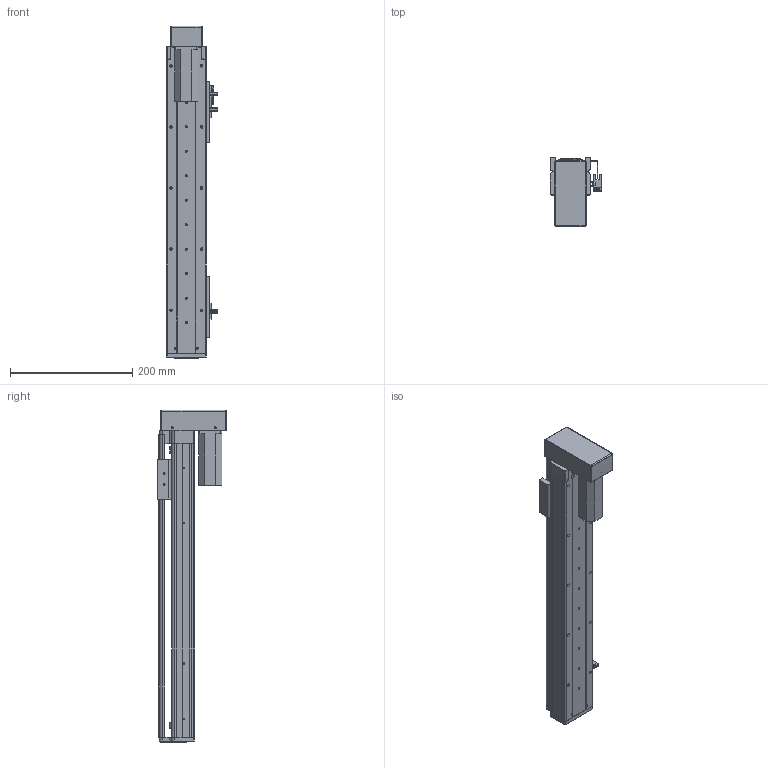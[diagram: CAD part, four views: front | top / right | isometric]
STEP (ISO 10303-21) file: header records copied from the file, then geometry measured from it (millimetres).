
FILE_DESCRIPTION (( 'STEP AP203' ), '1' );
FILE_NAME ('RY60-L1210-300-BK.SLDASM_350.step', '2021-02-20T06:42:08', ( '盈信电脑' ), ( '东莞市道滘镇水果街19号' ), 'SwSTEP 2.0', 'SolidWorks 2012', '' );
FILE_SCHEMA (( 'CONFIG_CONTROL_DESIGN' ));
Length unit declared in the file: millimetre
Products named in the file (13): RY60狟殏萇儂欶100W; 滅袉蝶18-10; RY60-L1210-300-BK.SLDASM_350; RY60转折电机端支撑座; 侂狟100W; RY80俋离覜茼え; RY60狟殏萇儂假蚾啣; 672嫖萇羲壽假蚾釱; 覜茼ん672; RY60綴裔啣; RY60-300倰第菁釱-BK_350; RY60-300倰第裔啣-BK_350; RY60臏賑輸
Assembly tree (18 placements, depth 2):
  RY60-L1210-300-BK.SLDASM_350
    RY60-300倰第菁釱-BK_350
    RY60臏賑輸
    RY60-300倰第裔啣-BK_350
    672嫖萇羲壽假蚾釱  x2
    RY60綴裔啣
    覜茼ん672  x3
    RY80俋离覜茼え
    RY60转折电机端支撑座
    RY60狟殏萇儂假蚾啣
    侂狟100W
    RY60狟殏萇儂欶100W
    滅袉蝶18-10  x4
Bounding box: 83.7 x 113.5 x 543 mm (x, y, z)
Volume: 771082 mm3; surface area: 381960 mm2
Topology: 18 solids, 18 shells, 1403 faces, 3905 edges, 2502 vertices
Faces by surface type: plane 703, cylinder 579, cone 104, bspline 17
Entity records: 41404 total; most frequent: CARTESIAN_POINT 9639, ORIENTED_EDGE 6386, DIRECTION 6215, EDGE_CURVE 3193, AXIS2_PLACEMENT_3D 2128, VERTEX_POINT 2082, VECTOR 1959, LINE 1959
